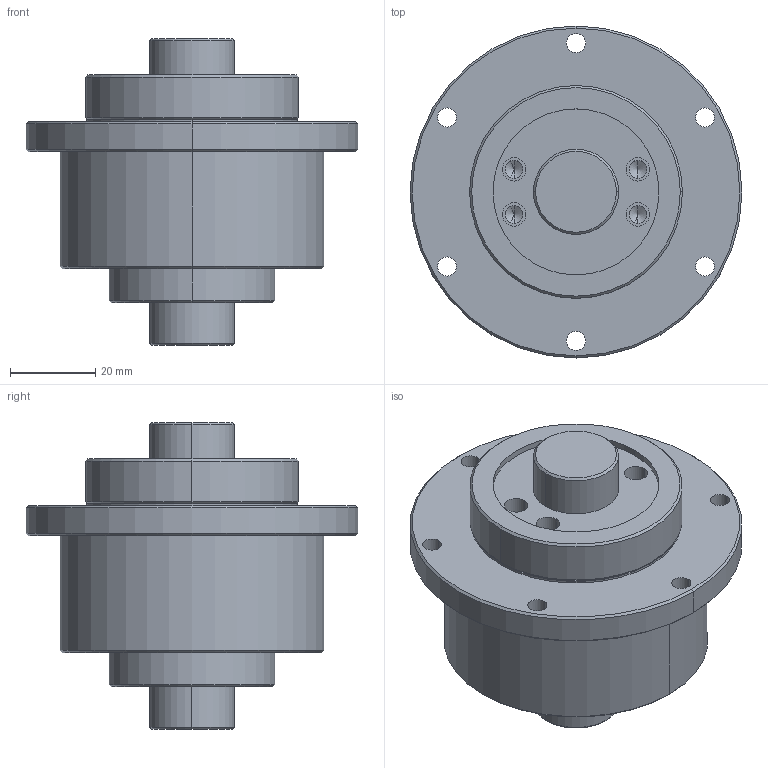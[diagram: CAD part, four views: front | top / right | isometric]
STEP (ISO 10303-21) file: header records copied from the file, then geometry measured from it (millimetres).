
FILE_DESCRIPTION (( 'STEP AP203' ), '1' );
FILE_NAME ('RFBY2020.STEP', '2014-11-13T09:02:11', ( '' ), ( '' ), 'SwSTEP 2.0', 'SolidWorks 2014', '' );
FILE_SCHEMA (( 'CONFIG_CONTROL_DESIGN' ));
Length unit declared in the file: millimetre
Products named in the file (1): RFBY2020
Bounding box: 78 x 78 x 72 mm (x, y, z)
Volume: 150325 mm3; surface area: 31852.2 mm2
Topology: 3 solids, 3 shells, 84 faces, 186 edges, 112 vertices
Faces by surface type: cylinder 46, cone 24, plane 14
Entity records: 2395 total; most frequent: DIRECTION 456, CARTESIAN_POINT 375, ORIENTED_EDGE 356, AXIS2_PLACEMENT_3D 193, EDGE_CURVE 178, VERTEX_POINT 112, EDGE_LOOP 112, CIRCLE 108
